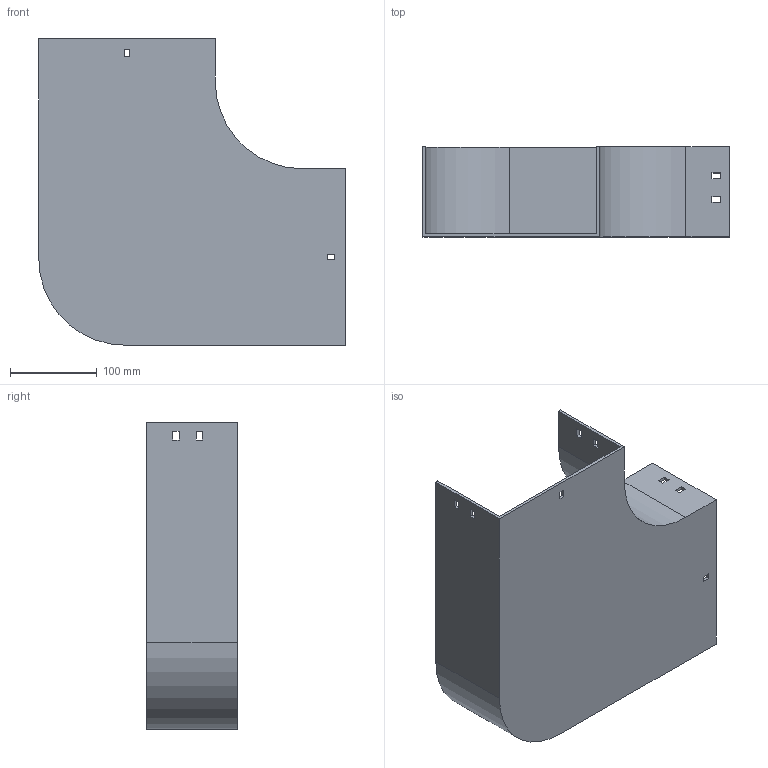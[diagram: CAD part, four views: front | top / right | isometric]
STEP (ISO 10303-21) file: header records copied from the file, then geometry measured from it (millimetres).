
FILE_DESCRIPTION (( 'STEP AP214' ), '1' );
FILE_NAME ('10B1D200.step', '2025-02-21T09:39:35', ( '' ), ( '' ), 'SwSTEP 2.0', 'SolidWorks 2023', '' );
FILE_SCHEMA (( 'AUTOMOTIVE_DESIGN' ));
Length unit declared in the file: millimetre
Products named in the file (1): 10B1D200
Bounding box: 354 x 104 x 354 mm (x, y, z)
Volume: 681856 mm3; surface area: 396863.6 mm2
Topology: 1 solids, 1 shells, 58 faces, 168 edges, 112 vertices
Faces by surface type: plane 54, cylinder 4
Entity records: 1943 total; most frequent: CARTESIAN_POINT 339, ORIENTED_EDGE 336, DIRECTION 294, EDGE_CURVE 168, LINE 160, VECTOR 160, VERTEX_POINT 112, EDGE_LOOP 78
